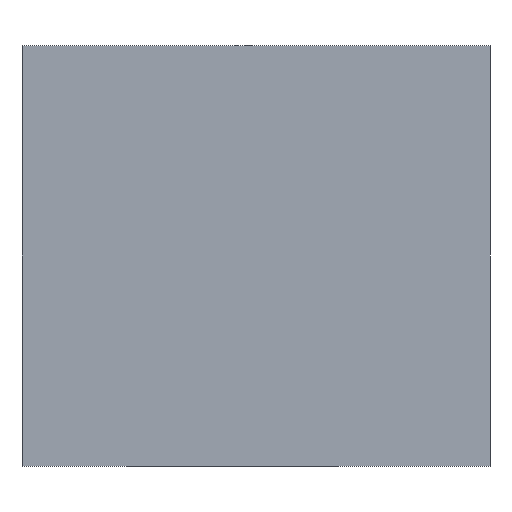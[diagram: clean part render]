
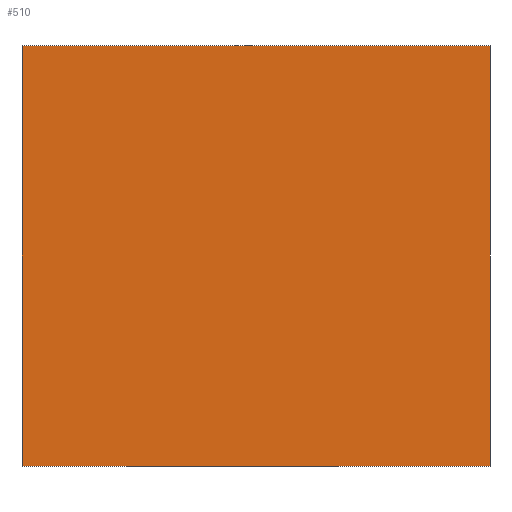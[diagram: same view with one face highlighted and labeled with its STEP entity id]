
A CAD part, front view. The second image highlights one B-rep face of the part: STEP entity #510.
In plain terms, the highlighted planar face has unit normal (0, -1, 0).
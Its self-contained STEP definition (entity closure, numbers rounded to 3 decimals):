
#51 = CARTESIAN_POINT ( 'NONE',  ( -20., -18., -14.5 ) ) ;
#69 = VERTEX_POINT ( 'NONE', #652 ) ;
#102 = DIRECTION ( 'NONE',  ( 0., 1., 0. ) ) ;
#167 = VERTEX_POINT ( 'NONE', #619 ) ;
#197 = CARTESIAN_POINT ( 'NONE',  ( -20., -18., 25.5 ) ) ;
#216 = DIRECTION ( 'NONE',  ( -1., 0., 0. ) ) ;
#271 = AXIS2_PLACEMENT_3D ( 'NONE', #490, #102, #892 ) ;
#281 = CARTESIAN_POINT ( 'NONE',  ( -20., -18., -14.5 ) ) ;
#402 = VERTEX_POINT ( 'NONE', #986 ) ;
#455 = CARTESIAN_POINT ( 'NONE',  ( 24.5, -18., -14.5 ) ) ;
#490 = CARTESIAN_POINT ( 'NONE',  ( 0., -18., 0. ) ) ;
#500 = FACE_OUTER_BOUND ( 'NONE', #798, .T. ) ;
#510 = ADVANCED_FACE ( 'NONE', ( #500 ), #973, .F. ) ;
#617 = DIRECTION ( 'NONE',  ( 0., 0., 1. ) ) ;
#618 = VECTOR ( 'NONE', #1042, 1000. ) ;
#619 = CARTESIAN_POINT ( 'NONE',  ( -20., -18., 25.5 ) ) ;
#651 = VECTOR ( 'NONE', #617, 1000. ) ;
#652 = CARTESIAN_POINT ( 'NONE',  ( 24.5, -18., -14.5 ) ) ;
#658 = ORIENTED_EDGE ( 'NONE', *, *, #782, .T. ) ;
#681 = VERTEX_POINT ( 'NONE', #729 ) ;
#729 = CARTESIAN_POINT ( 'NONE',  ( -20., -18., -14.5 ) ) ;
#750 = EDGE_CURVE ( 'NONE', #69, #402, #988, .T. ) ;
#782 = EDGE_CURVE ( 'NONE', #681, #69, #871, .T. ) ;
#798 = EDGE_LOOP ( 'NONE', ( #1027, #658, #932, #1063 ) ) ;
#849 = DIRECTION ( 'NONE',  ( 0., 0., -1. ) ) ;
#871 = LINE ( 'NONE', #51, #618 ) ;
#892 = DIRECTION ( 'NONE',  ( 0., 0., 1. ) ) ;
#932 = ORIENTED_EDGE ( 'NONE', *, *, #750, .T. ) ;
#948 = VECTOR ( 'NONE', #849, 1000. ) ;
#957 = EDGE_CURVE ( 'NONE', #167, #681, #1026, .T. ) ;
#973 = PLANE ( 'NONE',  #271 ) ;
#986 = CARTESIAN_POINT ( 'NONE',  ( 24.5, -18., 25.5 ) ) ;
#988 = LINE ( 'NONE', #455, #651 ) ;
#1026 = LINE ( 'NONE', #281, #948 ) ;
#1027 = ORIENTED_EDGE ( 'NONE', *, *, #957, .T. ) ;
#1029 = EDGE_CURVE ( 'NONE', #402, #167, #1036, .T. ) ;
#1036 = LINE ( 'NONE', #197, #1050 ) ;
#1042 = DIRECTION ( 'NONE',  ( 1., 0., 0. ) ) ;
#1050 = VECTOR ( 'NONE', #216, 1000. ) ;
#1063 = ORIENTED_EDGE ( 'NONE', *, *, #1029, .T. ) ;
